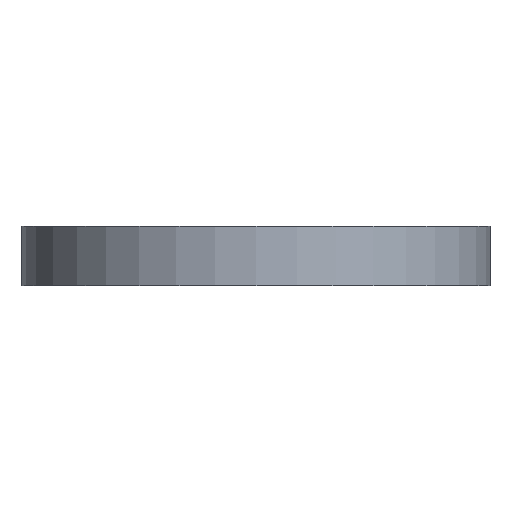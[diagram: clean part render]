
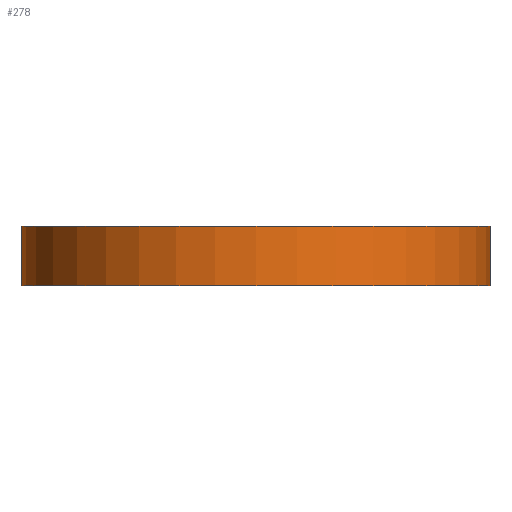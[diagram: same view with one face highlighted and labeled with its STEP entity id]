
A CAD part, front view. The second image highlights one B-rep face of the part: STEP entity #278.
In plain terms, the highlighted cylindrical face has radius 90 mm (diameter 180 mm), a partial arc.
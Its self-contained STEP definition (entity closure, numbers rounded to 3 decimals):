
#12 = CARTESIAN_POINT ( 'NONE',  ( 90., 0., 0. ) ) ;
#16 = FACE_OUTER_BOUND ( 'NONE', #1032, .T. ) ;
#32 = ORIENTED_EDGE ( 'NONE', *, *, #949, .F. ) ;
#46 = ORIENTED_EDGE ( 'NONE', *, *, #1014, .F. ) ;
#67 = DIRECTION ( 'NONE',  ( 0., 0., -1. ) ) ;
#87 = VERTEX_POINT ( 'NONE', #492 ) ;
#95 = LINE ( 'NONE', #609, #1026 ) ;
#111 = AXIS2_PLACEMENT_3D ( 'NONE', #130, #121, #205 ) ;
#121 = DIRECTION ( 'NONE',  ( 0., 0., -1. ) ) ;
#125 = VECTOR ( 'NONE', #67, 1000. ) ;
#130 = CARTESIAN_POINT ( 'NONE',  ( 0., 0., 23. ) ) ;
#156 = EDGE_CURVE ( 'NONE', #192, #707, #878, .T. ) ;
#159 = CARTESIAN_POINT ( 'NONE',  ( 0., 0., 23. ) ) ;
#185 = CYLINDRICAL_SURFACE ( 'NONE', #111, 90. ) ;
#192 = VERTEX_POINT ( 'NONE', #597 ) ;
#194 = CARTESIAN_POINT ( 'NONE',  ( 90., 0., 23. ) ) ;
#205 = DIRECTION ( 'NONE',  ( -1., 0., 0. ) ) ;
#210 = DIRECTION ( 'NONE',  ( 0., 0., -1. ) ) ;
#273 = DIRECTION ( 'NONE',  ( 0., 0., 1. ) ) ;
#278 = ADVANCED_FACE ( 'NONE', ( #16 ), #185, .T. ) ;
#302 = AXIS2_PLACEMENT_3D ( 'NONE', #159, #390, #566 ) ;
#367 = CARTESIAN_POINT ( 'NONE',  ( 0., 0., 0. ) ) ;
#390 = DIRECTION ( 'NONE',  ( 0., 0., 1. ) ) ;
#406 = CARTESIAN_POINT ( 'NONE',  ( -90., 0., 23. ) ) ;
#409 = LINE ( 'NONE', #406, #125 ) ;
#419 = EDGE_CURVE ( 'NONE', #87, #192, #409, .T. ) ;
#492 = CARTESIAN_POINT ( 'NONE',  ( -90., 0., 23. ) ) ;
#499 = ORIENTED_EDGE ( 'NONE', *, *, #156, .T. ) ;
#566 = DIRECTION ( 'NONE',  ( 1., 0., 0. ) ) ;
#597 = CARTESIAN_POINT ( 'NONE',  ( -90., 0., 0. ) ) ;
#598 = AXIS2_PLACEMENT_3D ( 'NONE', #367, #273, #998 ) ;
#609 = CARTESIAN_POINT ( 'NONE',  ( 90., 0., 23. ) ) ;
#707 = VERTEX_POINT ( 'NONE', #12 ) ;
#777 = VERTEX_POINT ( 'NONE', #194 ) ;
#878 = CIRCLE ( 'NONE', #598, 90. ) ;
#949 = EDGE_CURVE ( 'NONE', #777, #707, #95, .T. ) ;
#998 = DIRECTION ( 'NONE',  ( 1., 0., 0. ) ) ;
#1002 = CIRCLE ( 'NONE', #302, 90. ) ;
#1014 = EDGE_CURVE ( 'NONE', #87, #777, #1002, .T. ) ;
#1026 = VECTOR ( 'NONE', #210, 1000. ) ;
#1031 = ORIENTED_EDGE ( 'NONE', *, *, #419, .T. ) ;
#1032 = EDGE_LOOP ( 'NONE', ( #32, #46, #1031, #499 ) ) ;
